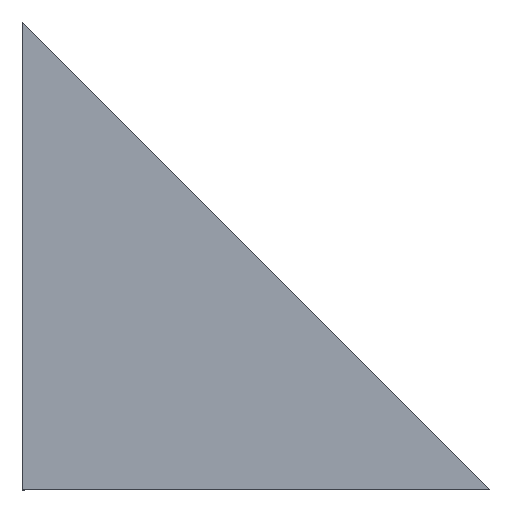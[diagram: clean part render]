
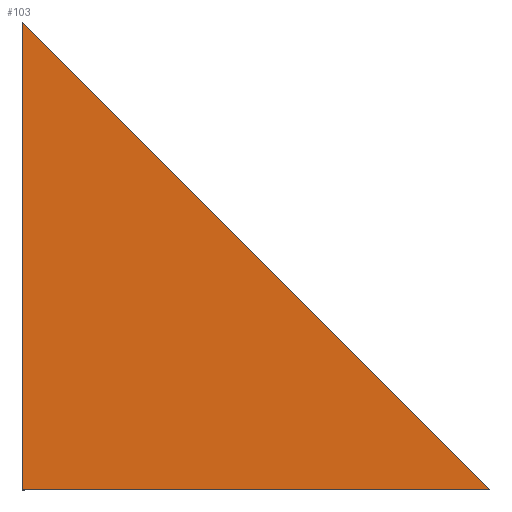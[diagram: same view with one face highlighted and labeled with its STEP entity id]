
A CAD part, top view. The second image highlights one B-rep face of the part: STEP entity #103.
In plain terms, the highlighted planar face has unit normal (0, 0, 1).
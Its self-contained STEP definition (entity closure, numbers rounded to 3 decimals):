
#1 = VECTOR ( 'NONE', #78, 1000. ) ;
#5 = CARTESIAN_POINT ( 'NONE',  ( 0., 0., 20. ) ) ;
#6 = PLANE ( 'NONE',  #172 ) ;
#7 = CARTESIAN_POINT ( 'NONE',  ( 383., 0., 20. ) ) ;
#14 = EDGE_CURVE ( 'NONE', #98, #139, #146, .T. ) ;
#18 = FACE_OUTER_BOUND ( 'NONE', #20, .T. ) ;
#19 = ORIENTED_EDGE ( 'NONE', *, *, #177, .T. ) ;
#20 = EDGE_LOOP ( 'NONE', ( #92, #138, #19 ) ) ;
#21 = CARTESIAN_POINT ( 'NONE',  ( 383., 0., 20. ) ) ;
#39 = DIRECTION ( 'NONE',  ( 0., -1., 0. ) ) ;
#48 = CARTESIAN_POINT ( 'NONE',  ( 0., 0., 20. ) ) ;
#50 = DIRECTION ( 'NONE',  ( -1., 0., 0. ) ) ;
#64 = CARTESIAN_POINT ( 'NONE',  ( 0., 0., 20. ) ) ;
#66 = VECTOR ( 'NONE', #39, 1000. ) ;
#67 = DIRECTION ( 'NONE',  ( -0.707, 0.707, 0. ) ) ;
#78 = DIRECTION ( 'NONE',  ( 1., 0., 0. ) ) ;
#92 = ORIENTED_EDGE ( 'NONE', *, *, #109, .T. ) ;
#97 = VECTOR ( 'NONE', #67, 1000. ) ;
#98 = VERTEX_POINT ( 'NONE', #7 ) ;
#103 = ADVANCED_FACE ( 'NONE', ( #18 ), #6, .F. ) ;
#109 = EDGE_CURVE ( 'NONE', #174, #98, #127, .T. ) ;
#113 = DIRECTION ( 'NONE',  ( 0., 0., -1. ) ) ;
#114 = CARTESIAN_POINT ( 'NONE',  ( 0., 383., 20. ) ) ;
#127 = LINE ( 'NONE', #21, #1 ) ;
#131 = CARTESIAN_POINT ( 'NONE',  ( 0., 383., 20. ) ) ;
#138 = ORIENTED_EDGE ( 'NONE', *, *, #14, .T. ) ;
#139 = VERTEX_POINT ( 'NONE', #114 ) ;
#146 = LINE ( 'NONE', #131, #97 ) ;
#172 = AXIS2_PLACEMENT_3D ( 'NONE', #64, #113, #50 ) ;
#174 = VERTEX_POINT ( 'NONE', #5 ) ;
#177 = EDGE_CURVE ( 'NONE', #139, #174, #192, .T. ) ;
#192 = LINE ( 'NONE', #48, #66 ) ;
